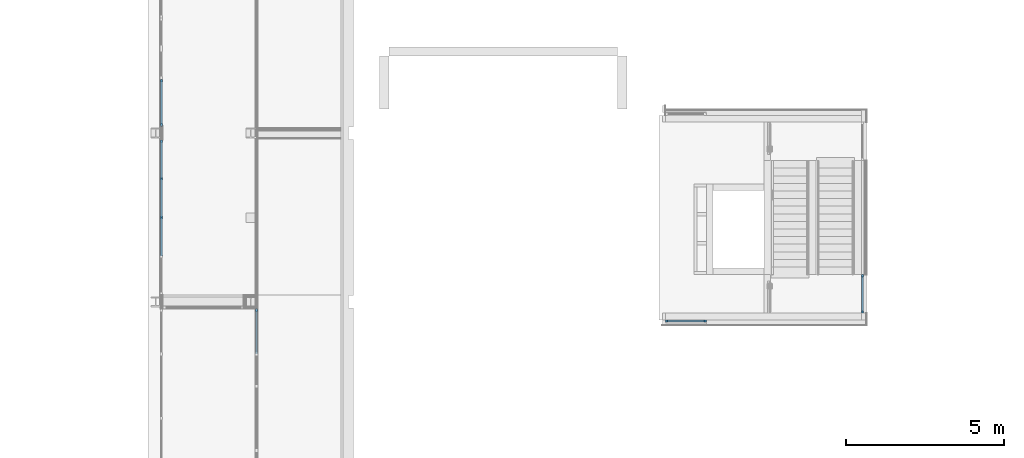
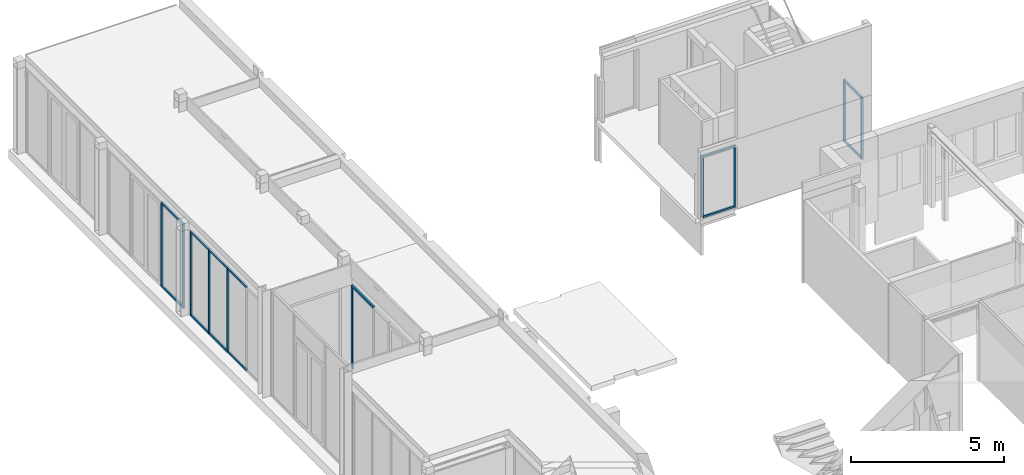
# One storey, part 3 of 99: 23 members, 5 elements without a shape of their own.
"""IFC2X3 building model written with IfcOpenShell, lengths in millimetres."""

from ifc_helpers import new_model, entity, si_unit, converted_unit, derived_unit, money_unit, direction, frame, origin_with_axes, place, context, subcontext, project, spatial, faceted_brep, source, transform, mapped, material, type_object, type_shapes, element, aggregate, save


model = new_model("IFC2X3")

# Units and contexts
model_context = context("Model", 3, precision=0.01, world=origin_with_axes(), true_north=direction((0.0, 1.0)))
body_context = subcontext(model_context, "Body", "Model", "MODEL_VIEW")
ifc_project = project(units=[si_unit("LENGTHUNIT", "METRE", prefix="MILLI"), si_unit("AREAUNIT", "SQUARE_METRE"), si_unit("VOLUMEUNIT", "CUBIC_METRE"), converted_unit("PLANEANGLEUNIT", "DEGREE", entity("IfcPlaneAngleMeasure", 0.0174532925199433), si_unit("PLANEANGLEUNIT", "RADIAN"), dimensions=[0, 0, 0, 0, 0, 0, 0]), money_unit("EUR"), converted_unit("TIMEUNIT", "Year", entity("IfcTimeMeasure", 31557600.0), si_unit("TIMEUNIT", "SECOND"), dimensions=[0, 0, 1, 0, 0, 0, 0]), si_unit("MASSUNIT", "GRAM", prefix="KILO"), si_unit("THERMODYNAMICTEMPERATUREUNIT", "DEGREE_CELSIUS"), si_unit("LUMINOUSINTENSITYUNIT", "LUMEN"), si_unit("ENERGYUNIT", "JOULE", prefix="MEGA"), derived_unit("THERMALCONDUCTANCEUNIT", [(si_unit("POWERUNIT", "WATT"), 1), (si_unit("LENGTHUNIT", "METRE"), -1), (si_unit("THERMODYNAMICTEMPERATUREUNIT", "KELVIN"), -1)]), derived_unit("SPECIFICHEATCAPACITYUNIT", [(si_unit("ENERGYUNIT", "JOULE"), 1), (si_unit("MASSUNIT", "GRAM", prefix="KILO"), -1), (si_unit("THERMODYNAMICTEMPERATUREUNIT", "KELVIN"), -1)]), derived_unit("MASSDENSITYUNIT", [(si_unit("MASSUNIT", "GRAM", prefix="KILO"), 1), (si_unit("VOLUMEUNIT", "CUBIC_METRE"), -1)])], contexts=[model_context])

# Site, building, storey
site_placement = place(None, origin_with_axes())
site = spatial("IfcSite", under=ifc_project, at=site_placement, Name="Site", CompositionType="ELEMENT")
building_placement = place(site_placement, origin_with_axes())
building = spatial("IfcBuilding", under=site, at=building_placement, Name="Naam gebouw", CompositionType="ELEMENT")
storey_placement = place(building_placement, frame((0.0, 0.0, 7650.0), z_axis=(0.0, 0.0, 1.0), x_axis=(1.0, 0.0, 0.0)))
storey = spatial("IfcBuildingStorey", under=building, at=storey_placement, Name="2e verdieping N", CompositionType="ELEMENT", Elevation=7650.0)

# Curtain wall, members
curtain_wall_type_1 = type_object("IfcCurtainWallType", Name="Curtain Wall:21_CW_alu kozijn 070x065", PredefinedType="NOTDEFINED")
curtain_wall_1_placement = place(storey_placement, frame((0.0, 0.0, -7650.0), z_axis=(0.0, 0.0, 1.0), x_axis=(1.0, 0.0, 0.0)))
curtain_wall_1 = element("IfcCurtainWall", 1, at=curtain_wall_1_placement, inside=storey, type_object=curtain_wall_type_1, Name="Curtain Wall:21_CW_alu kozijn 070x065", ObjectType="Curtain Wall:21_CW_alu kozijn 070x065")
ifc_material = material(Name="RAL 7024 - Grafietgrijs")
member_type_1 = type_object("IfcMemberType", Name="Rectangular Mullion:31_alu_070x065 RAL 7024", PredefinedType="MULLION")
shared_shape_1 = source(origin_with_axes(), body_context, "Body", "Brep", [
    faceted_brep([(32.49999999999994, 1080.0, 0.0), (32.49999999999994, 1080.0, 70.0), (32.50000000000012, 0.0, 70.0), (32.50000000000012, 0.0, 0.0), (-32.50000000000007, 1080.0, 0.0), (-32.50000000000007, 1080.0, 70.0), (-32.4999999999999, 0.0, 70.0), (-32.4999999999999, 0.0, 0.0)], [[[0, 1, 2, 3]], [[0, 4, 5, 1]], [[1, 5, 6, 2]], [[3, 2, 6, 7]], [[4, 0, 3, 7]], [[5, 4, 7, 6]]]),
])
type_shapes(member_type_1, [shared_shape_1])
member_1_placement = place(curtain_wall_1_placement, frame((36613.5000000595, 34075.91242622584, 5920.000000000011), z_axis=(0.0, 0.0, 1.0), x_axis=(-1.0, 0.0, 0.0)))
member_1 = element("IfcMember", 2, at=member_1_placement, type_object=member_type_1, material=ifc_material, Name="Rectangular Mullion:31_alu_070x065 RAL 7024", ObjectType="MULLION", context=body_context, shape_type="MappedRepresentation", body=[
    mapped(shared_shape_1, transform((0.0, 0.0, 0.0))),
])
member_type_2 = type_object("IfcMemberType", Name="Rectangular Mullion:31_alu_070x065 RAL 7024", PredefinedType="MULLION")
shared_shape_2 = source(origin_with_axes(), body_context, "Body", "Brep", [
    faceted_brep([(0.0, -32.5, 2470.0), (-70.0, -32.50000000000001, 2470.0), (-70.0, -32.50000000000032, 0.0), (0.0, -32.50000000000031, 0.0), (0.0, 32.50000000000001, 2470.0), (-70.0, 32.5, 2470.0), (-70.0, 32.49999999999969, 0.0), (0.0, 32.49999999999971, 0.0)], [[[0, 1, 2, 3]], [[0, 4, 5, 1]], [[1, 5, 6, 2]], [[3, 2, 6, 7]], [[4, 0, 3, 7]], [[5, 4, 7, 6]]]),
])
type_shapes(member_type_2, [shared_shape_2])
member_2_placement = place(curtain_wall_1_placement, frame((36613.5000000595, 32925.91242631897, 5920.000000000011), z_axis=(0.0, 0.0, 1.0), x_axis=(0.0, -1.0, 0.0)))
member_2 = element("IfcMember", 3, at=member_2_placement, type_object=member_type_2, material=ifc_material, Name="Rectangular Mullion:31_alu_070x065 RAL 7024", ObjectType="MULLION", context=body_context, shape_type="MappedRepresentation", body=[
    mapped(shared_shape_2, transform((0.0, 0.0, 0.0))),
])

# Curtain wall, member
curtain_wall_2_placement = place(storey_placement, frame((0.0, 0.0, -7650.0), z_axis=(0.0, 0.0, 1.0), x_axis=(1.0, 0.0, 0.0)))
curtain_wall_2 = element("IfcCurtainWall", 4, at=curtain_wall_2_placement, inside=storey, type_object=curtain_wall_type_1, Name="Curtain Wall:21_CW_alu kozijn 070x065", ObjectType="Curtain Wall:21_CW_alu kozijn 070x065")
member_3_placement = place(curtain_wall_2_placement, frame((30391.00000002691, 32679.41242631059, 5920.000000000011), z_axis=(0.0, 0.0, 1.0), x_axis=(-1.0, 0.0, 0.0)))
member_3 = element("IfcMember", 5, at=member_3_placement, type_object=member_type_2, material=ifc_material, Name="Rectangular Mullion:31_alu_070x065 RAL 7024", ObjectType="MULLION", context=body_context, shape_type="MappedRepresentation", body=[
    mapped(shared_shape_2, transform((0.0, 0.0, 0.0))),
])

# Member
member_type_3 = type_object("IfcMemberType", Name="Rectangular Mullion:31_alu_070x065 RAL 7024", PredefinedType="MULLION")
shared_shape_3 = source(origin_with_axes(), body_context, "Body", "Brep", [
    faceted_brep([(0.0, 32.5, -2470.0), (-70.0, 32.50000000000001, -2470.0), (-70.0, 32.50000000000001, 0.0), (0.0, 32.5, 0.0), (0.0, -32.50000000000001, -2470.0), (-70.0, -32.5, -2470.0), (-70.0, -32.5, 0.0), (0.0, -32.50000000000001, 0.0)], [[[0, 1, 2, 3]], [[0, 4, 5, 1]], [[1, 5, 6, 2]], [[3, 2, 6, 7]], [[4, 0, 3, 7]], [[5, 4, 7, 6]]]),
])
type_shapes(member_type_3, [shared_shape_3])
member_4_placement = place(curtain_wall_1_placement, frame((36613.5000000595, 34145.91242629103, 8390.00000000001), z_axis=(0.0, 0.0, 1.0), x_axis=(0.0, 1.0, 0.0)))
member_4 = element("IfcMember", 6, at=member_4_placement, type_object=member_type_3, material=ifc_material, Name="Rectangular Mullion:31_alu_070x065 RAL 7024", ObjectType="MULLION", context=body_context, shape_type="MappedRepresentation", body=[
    mapped(shared_shape_3, transform((0.0, 0.0, 0.0))),
])

member_5_placement = place(curtain_wall_2_placement, frame((31685.01028266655, 32679.41242631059, 8390.00000000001), z_axis=(0.0, 0.0, 1.0), x_axis=(1.0, 0.0, 0.0)))
member_5 = element("IfcMember", 7, at=member_5_placement, type_object=member_type_3, material=ifc_material, Name="Rectangular Mullion:31_alu_070x065 RAL 7024", ObjectType="MULLION", context=body_context, shape_type="MappedRepresentation", body=[
    mapped(shared_shape_3, transform((0.0, 0.0, 0.0))),
])

member_type_4 = type_object("IfcMemberType", Name="Rectangular Mullion:31_alu_070x065 RAL 7024", PredefinedType="MULLION")
shared_shape_4 = source(origin_with_axes(), body_context, "Body", "Brep", [
    faceted_brep([(32.50000000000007, -1080.0, 0.0), (32.50000000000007, -1080.0, -70.0), (32.4999999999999, 0.0, -70.0), (32.4999999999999, 0.0, 0.0), (-32.49999999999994, -1080.0, 0.0), (-32.49999999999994, -1080.0, -70.0), (-32.50000000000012, 0.0, -70.0), (-32.50000000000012, 0.0, 0.0)], [[[0, 1, 2, 3]], [[0, 4, 5, 1]], [[1, 5, 6, 2]], [[3, 2, 6, 7]], [[4, 0, 3, 7]], [[5, 4, 7, 6]]]),
])
type_shapes(member_type_4, [shared_shape_4])
member_6_placement = place(curtain_wall_1_placement, frame((36613.5000000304, 32995.91242626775, 8390.00000000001), z_axis=(0.0, 0.0, 1.0), x_axis=(-1.0, 0.0, 0.0)))
member_6 = element("IfcMember", 8, at=member_6_placement, type_object=member_type_4, material=ifc_material, Name="Rectangular Mullion:31_alu_070x065 RAL 7024", ObjectType="MULLION", context=body_context, shape_type="MappedRepresentation", body=[
    mapped(shared_shape_4, transform((0.0, 0.0, 0.0))),
])

aggregate(curtain_wall_1, [member_1, member_4, member_6, member_2])

member_type_5 = type_object("IfcMemberType", Name="Rectangular Mullion:31_alu_070x065 RAL 7024", PredefinedType="MULLION")
shared_shape_5 = source(origin_with_axes(), body_context, "Body", "Brep", [
    faceted_brep([(32.49999999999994, 1154.0, 0.0), (32.49999999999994, 1154.0, 70.0), (32.50000000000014, -2.993161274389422e-10, 70.0), (32.50000000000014, -2.993161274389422e-10, 0.0), (-32.50000000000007, 1154.0, 0.0), (-32.50000000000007, 1154.0, 70.0), (-32.49999999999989, -2.993161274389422e-10, 70.0), (-32.49999999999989, -2.993161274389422e-10, 0.0)], [[[0, 1, 2, 3]], [[0, 4, 5, 1]], [[1, 5, 6, 2]], [[3, 2, 6, 7]], [[4, 0, 3, 7]], [[5, 4, 7, 6]]]),
])
type_shapes(member_type_5, [shared_shape_5])
member_7_placement = place(curtain_wall_2_placement, frame((31615.01028263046, 32679.41242631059, 5920.000000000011), z_axis=(0.0, 0.0, 1.0), x_axis=(0.0, 1.0, 0.0)))
member_7 = element("IfcMember", 9, at=member_7_placement, type_object=member_type_5, material=ifc_material, Name="Rectangular Mullion:31_alu_070x065 RAL 7024", ObjectType="MULLION", context=body_context, shape_type="MappedRepresentation", body=[
    mapped(shared_shape_5, transform((0.0, 0.0, 0.0))),
])

member_type_6 = type_object("IfcMemberType", Name="Rectangular Mullion:31_alu_070x065 RAL 7024", PredefinedType="MULLION")
shared_shape_6 = source(origin_with_axes(), body_context, "Body", "Brep", [
    faceted_brep([(32.50000000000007, -1154.0, 0.0), (32.50000000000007, -1154.0, -70.0), (32.49999999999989, 2.993161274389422e-10, -70.0), (32.49999999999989, 2.993161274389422e-10, 0.0), (-32.49999999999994, -1154.0, 0.0), (-32.49999999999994, -1154.0, -70.0), (-32.50000000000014, 2.993161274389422e-10, -70.0), (-32.50000000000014, 2.993161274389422e-10, 0.0)], [[[0, 1, 2, 3]], [[0, 4, 5, 1]], [[1, 5, 6, 2]], [[3, 2, 6, 7]], [[4, 0, 3, 7]], [[5, 4, 7, 6]]]),
])
type_shapes(member_type_6, [shared_shape_6])
member_8_placement = place(curtain_wall_2_placement, frame((30461.00000003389, 32679.41242631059, 8390.00000000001), z_axis=(0.0, 0.0, 1.0), x_axis=(0.0, 1.0, 0.0)))
member_8 = element("IfcMember", 10, at=member_8_placement, type_object=member_type_6, material=ifc_material, Name="Rectangular Mullion:31_alu_070x065 RAL 7024", ObjectType="MULLION", context=body_context, shape_type="MappedRepresentation", body=[
    mapped(shared_shape_6, transform((0.0, 0.0, 0.0))),
])

aggregate(curtain_wall_2, [member_7, member_8, member_3, member_5])

# Curtain wall, member
curtain_wall_type_2 = type_object("IfcCurtainWallType", Name="Curtain Wall:21_CW_alu kozijn 084x065", PredefinedType="NOTDEFINED")
curtain_wall_3_placement = place(storey_placement, frame((0.0, 0.0, -7650.0), z_axis=(0.0, 0.0, 1.0), x_axis=(1.0, 0.0, 0.0)))
curtain_wall_3 = element("IfcCurtainWall", 11, at=curtain_wall_3_placement, inside=storey, type_object=curtain_wall_type_2, Name="Curtain Wall:21_CW_alu kozijn 084x065", ObjectType="Curtain Wall:21_CW_alu kozijn 084x065")
member_type_7 = type_object("IfcMemberType", Name="Rectangular Mullion:31_alu_084x065 RAL 7024", PredefinedType="MULLION")
shared_shape_7 = source(origin_with_axes(), body_context, "Body", "Brep", [
    faceted_brep([(42.00000000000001, -32.49999999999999, 3232.0), (-41.99999999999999, -32.50000000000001, 3232.0), (-41.99999999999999, -32.50000000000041, 0.0), (42.00000000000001, -32.50000000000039, 0.0), (41.99999999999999, 32.50000000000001, 3232.0), (-42.00000000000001, 32.49999999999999, 3232.0), (-42.00000000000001, 32.4999999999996, 0.0), (41.99999999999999, 32.49999999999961, 0.0)], [[[0, 1, 2, 3]], [[0, 4, 5, 1]], [[1, 5, 6, 2]], [[3, 2, 6, 7]], [[4, 0, 3, 7]], [[5, 4, 7, 6]]]),
])
type_shapes(member_type_7, [shared_shape_7])
member_9_placement = place(curtain_wall_3_placement, frame((14474.50000003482, 40265.91242634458, 4234.000000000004), z_axis=(0.0, 0.0, 1.0), x_axis=(0.0, 1.0, 0.0)))
member_9 = element("IfcMember", 12, at=member_9_placement, type_object=member_type_7, material=ifc_material, Name="Rectangular Mullion:31_alu_084x065 RAL 7024", ObjectType="MULLION", context=body_context, shape_type="MappedRepresentation", body=[
    mapped(shared_shape_7, transform((0.0, 0.0, 0.0))),
])

# Curtain wall, members
curtain_wall_4_placement = place(storey_placement, frame((0.0, 0.0, -7650.0), z_axis=(0.0, 0.0, 1.0), x_axis=(1.0, 0.0, 0.0)))
curtain_wall_4 = element("IfcCurtainWall", 13, at=curtain_wall_4_placement, inside=storey, type_object=curtain_wall_type_2, Name="Curtain Wall:21_CW_alu kozijn 084x065", ObjectType="Curtain Wall:21_CW_alu kozijn 084x065")
member_10_placement = place(curtain_wall_4_placement, frame((14474.50000003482, 35950.91242634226, 4234.000000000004), z_axis=(0.0, 0.0, 1.0), x_axis=(0.0, 1.0, 0.0)))
member_10 = element("IfcMember", 14, at=member_10_placement, type_object=member_type_7, material=ifc_material, Name="Rectangular Mullion:31_alu_084x065 RAL 7024", ObjectType="MULLION", context=body_context, shape_type="MappedRepresentation", body=[
    mapped(shared_shape_7, transform((0.0, 0.0, 0.0))),
])
member_11_placement = place(curtain_wall_4_placement, frame((14474.50000003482, 37175.91242631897, 4234.000000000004), z_axis=(0.0, 0.0, 1.0), x_axis=(0.0, 1.0, 0.0)))
member_11 = element("IfcMember", 15, at=member_11_placement, type_object=member_type_7, material=ifc_material, Name="Rectangular Mullion:31_alu_084x065 RAL 7024", ObjectType="MULLION", context=body_context, shape_type="MappedRepresentation", body=[
    mapped(shared_shape_7, transform((0.0, 0.0, 0.0))),
])
member_type_8 = type_object("IfcMemberType", Name="Rectangular Mullion:31_alu_084x065 RAL 7024", PredefinedType="MULLION")
shared_shape_8 = source(origin_with_axes(), body_context, "Body", "Brep", [
    faceted_brep([(0.0, -32.5, 3232.0), (-83.99999999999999, -32.50000000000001, 3232.0), (-83.99999999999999, -32.50000000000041, 0.0), (0.0, -32.5000000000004, 0.0), (0.0, 32.50000000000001, 3232.0), (-84.00000000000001, 32.5, 3232.0), (-84.00000000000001, 32.4999999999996, 0.0), (0.0, 32.49999999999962, 0.0)], [[[0, 1, 2, 3]], [[0, 4, 5, 1]], [[1, 5, 6, 2]], [[3, 2, 6, 7]], [[4, 0, 3, 7]], [[5, 4, 7, 6]]]),
])
type_shapes(member_type_8, [shared_shape_8])
member_12_placement = place(curtain_wall_4_placement, frame((14474.50000006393, 38400.91242629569, 4234.000000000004), z_axis=(0.0, 0.0, 1.0), x_axis=(0.0, 1.0, 0.0)))
member_12 = element("IfcMember", 16, at=member_12_placement, type_object=member_type_8, material=ifc_material, Name="Rectangular Mullion:31_alu_084x065 RAL 7024", ObjectType="MULLION", context=body_context, shape_type="MappedRepresentation", body=[
    mapped(shared_shape_8, transform((0.0, 0.0, 0.0))),
])

# Curtain wall, member
curtain_wall_5_placement = place(storey_placement, frame((0.0, 0.0, -7650.0), z_axis=(0.0, 0.0, 1.0), x_axis=(1.0, 0.0, 0.0)))
curtain_wall_5 = element("IfcCurtainWall", 17, at=curtain_wall_5_placement, inside=storey, type_object=curtain_wall_type_2, Name="Curtain Wall:21_CW_alu kozijn 084x065", ObjectType="Curtain Wall:21_CW_alu kozijn 084x065")
member_13_placement = place(curtain_wall_5_placement, frame((17473.50000004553, 33070.9124263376, 4234.000000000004), z_axis=(0.0, 0.0, 1.0), x_axis=(0.0, 1.0, 0.0)))
member_13 = element("IfcMember", 18, at=member_13_placement, type_object=member_type_8, material=ifc_material, Name="Rectangular Mullion:31_alu_084x065 RAL 7024", ObjectType="MULLION", context=body_context, shape_type="MappedRepresentation", body=[
    mapped(shared_shape_8, transform((0.0, 0.0, 0.0))),
])

# Member
member_type_9 = type_object("IfcMemberType", Name="Rectangular Mullion:31_alu_084x065 RAL 7024", PredefinedType="MULLION")
shared_shape_9 = source(origin_with_axes(), body_context, "Body", "Brep", [
    faceted_brep([(0.0, 32.5, -3232.0), (-83.99999999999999, 32.50000000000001, -3232.0), (-83.99999999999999, 32.50000000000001, 0.0), (0.0, 32.5, 0.0), (0.0, -32.50000000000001, -3232.0), (-84.00000000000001, -32.5, -3232.0), (-84.00000000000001, -32.5, 0.0), (0.0, -32.50000000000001, 0.0)], [[[0, 1, 2, 3]], [[0, 4, 5, 1]], [[1, 5, 6, 2]], [[3, 2, 6, 7]], [[4, 0, 3, 7]], [[5, 4, 7, 6]]]),
])
type_shapes(member_type_9, [shared_shape_9])
member_14_placement = place(curtain_wall_3_placement, frame((14474.50000003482, 38830.91242634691, 7466.000000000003), z_axis=(0.0, 0.0, 1.0), x_axis=(0.0, -1.0, 0.0)))
member_14 = element("IfcMember", 19, at=member_14_placement, type_object=member_type_9, material=ifc_material, Name="Rectangular Mullion:31_alu_084x065 RAL 7024", ObjectType="MULLION", context=body_context, shape_type="MappedRepresentation", body=[
    mapped(shared_shape_9, transform((0.0, 0.0, 0.0))),
])

member_type_10 = type_object("IfcMemberType", Name="Rectangular Mullion:31_alu_084x065 RAL 7024", PredefinedType="MULLION")
shared_shape_10 = source(origin_with_axes(), body_context, "Body", "Brep", [
    faceted_brep([(32.49999999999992, 1477.0, 0.0), (32.49999999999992, 1477.0, 84.0), (32.50000000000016, -1.727507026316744e-10, 84.0), (32.50000000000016, -1.727507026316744e-10, 0.0), (-32.50000000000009, 1477.0, 0.0), (-32.50000000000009, 1477.0, 84.0), (-32.49999999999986, -1.727507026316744e-10, 84.0), (-32.49999999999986, -1.727507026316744e-10, 0.0)], [[[0, 1, 2, 3]], [[0, 4, 5, 1]], [[1, 5, 6, 2]], [[3, 2, 6, 7]], [[4, 0, 3, 7]], [[5, 4, 7, 6]]]),
])
type_shapes(member_type_10, [shared_shape_10])
member_15_placement = place(curtain_wall_3_placement, frame((14474.50000003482, 38830.91242634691, 4150.0), z_axis=(0.0, 0.0, 1.0), x_axis=(1.0, 0.0, 0.0)))
member_15 = element("IfcMember", 20, at=member_15_placement, type_object=member_type_10, material=ifc_material, Name="Rectangular Mullion:31_alu_084x065 RAL 7024", ObjectType="MULLION", context=body_context, shape_type="MappedRepresentation", body=[
    mapped(shared_shape_10, transform((0.0, 0.0, 0.0))),
])

member_type_11 = type_object("IfcMemberType", Name="Rectangular Mullion:31_alu_084x065 RAL 7024", PredefinedType="MULLION")
shared_shape_11 = source(origin_with_axes(), body_context, "Body", "Brep", [
    faceted_brep([(32.50000000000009, -1435.0, 0.0), (32.50000000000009, -1435.0, -84.0), (32.49999999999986, 1.729727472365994e-10, -84.0), (32.49999999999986, 1.729727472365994e-10, 0.0), (-32.49999999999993, -1435.0, 0.0), (-32.49999999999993, -1435.0, -84.0), (-32.50000000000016, 1.729727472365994e-10, -84.0), (-32.50000000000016, 1.729727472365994e-10, 0.0)], [[[0, 1, 2, 3]], [[0, 4, 5, 1]], [[1, 5, 6, 2]], [[3, 2, 6, 7]], [[4, 0, 3, 7]], [[5, 4, 7, 6]]]),
])
type_shapes(member_type_11, [shared_shape_11])
member_16_placement = place(curtain_wall_3_placement, frame((14474.50000003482, 40265.91242634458, 7550.000000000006), z_axis=(0.0, 0.0, 1.0), x_axis=(1.0, 0.0, 0.0)))
member_16 = element("IfcMember", 21, at=member_16_placement, type_object=member_type_11, material=ifc_material, Name="Rectangular Mullion:31_alu_084x065 RAL 7024", ObjectType="MULLION", context=body_context, shape_type="MappedRepresentation", body=[
    mapped(shared_shape_11, transform((0.0, 0.0, 0.0))),
])

aggregate(curtain_wall_3, [member_14, member_15, member_9, member_16])

member_type_12 = type_object("IfcMemberType", Name="Rectangular Mullion:31_alu_084x065 RAL 7024", PredefinedType="MULLION")
type_shapes(member_type_12, [shared_shape_11])
member_17_placement = place(curtain_wall_5_placement, frame((17473.50000004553, 33070.9124263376, 7550.000000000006), z_axis=(0.0, 0.0, 1.0), x_axis=(1.0, 0.0, 0.0)))
member_17 = element("IfcMember", 22, at=member_17_placement, type_object=member_type_12, material=ifc_material, Name="Rectangular Mullion:31_alu_084x065 RAL 7024", ObjectType="MULLION", context=body_context, shape_type="MappedRepresentation", body=[
    mapped(shared_shape_11, transform((0.0, 0.0, 0.0))),
])

aggregate(curtain_wall_5, [member_17, member_13])

member_type_13 = type_object("IfcMemberType", Name="Rectangular Mullion:31_alu_084x065 RAL 7024", PredefinedType="MULLION")
shared_shape_12 = source(origin_with_axes(), body_context, "Body", "Brep", [
    faceted_brep([(32.50000000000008, -1225.0, 0.0), (32.50000000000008, -1225.0, -84.0), (32.49999999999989, 0.0, -84.0), (32.49999999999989, 0.0, 0.0), (-32.49999999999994, -1225.0, 0.0), (-32.49999999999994, -1225.0, -84.0), (-32.50000000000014, 0.0, -84.0), (-32.50000000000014, 0.0, 0.0)], [[[0, 1, 2, 3]], [[0, 4, 5, 1]], [[1, 5, 6, 2]], [[3, 2, 6, 7]], [[4, 0, 3, 7]], [[5, 4, 7, 6]]]),
])
type_shapes(member_type_13, [shared_shape_12])
member_18_placement = place(curtain_wall_4_placement, frame((14474.50000003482, 35950.91242634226, 7550.000000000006), z_axis=(0.0, 0.0, 1.0), x_axis=(1.0, 0.0, 0.0)))
member_18 = element("IfcMember", 23, at=member_18_placement, type_object=member_type_13, material=ifc_material, Name="Rectangular Mullion:31_alu_084x065 RAL 7024", ObjectType="MULLION", context=body_context, shape_type="MappedRepresentation", body=[
    mapped(shared_shape_12, transform((0.0, 0.0, 0.0))),
])

member_type_14 = type_object("IfcMemberType", Name="Rectangular Mullion:31_alu_084x065 RAL 7024", PredefinedType="MULLION")
type_shapes(member_type_14, [shared_shape_12])
member_19_placement = place(curtain_wall_4_placement, frame((14474.50000006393, 38400.91242629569, 7550.000000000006), z_axis=(0.0, 0.0, 1.0), x_axis=(1.0, 0.0, 0.0)))
member_19 = element("IfcMember", 24, at=member_19_placement, type_object=member_type_14, material=ifc_material, Name="Rectangular Mullion:31_alu_084x065 RAL 7024", ObjectType="MULLION", context=body_context, shape_type="MappedRepresentation", body=[
    mapped(shared_shape_12, transform((0.0, 0.0, 0.0))),
])

member_20_placement = place(curtain_wall_4_placement, frame((14474.50000003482, 37175.91242631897, 7550.000000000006), z_axis=(0.0, 0.0, 1.0), x_axis=(1.0, 0.0, 0.0)))
member_20 = element("IfcMember", 25, at=member_20_placement, type_object=member_type_13, material=ifc_material, Name="Rectangular Mullion:31_alu_084x065 RAL 7024", ObjectType="MULLION", context=body_context, shape_type="MappedRepresentation", body=[
    mapped(shared_shape_12, transform((0.0, 0.0, 0.0))),
])

member_type_15 = type_object("IfcMemberType", Name="Rectangular Mullion:31_alu_084x065 RAL 7024", PredefinedType="MULLION")
shared_shape_13 = source(origin_with_axes(), body_context, "Body", "Brep", [
    faceted_brep([(32.49999999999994, 1225.0, 0.0), (32.49999999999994, 1225.0, 84.0), (32.50000000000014, 0.0, 84.0), (32.50000000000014, 0.0, 0.0), (-32.50000000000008, 1225.0, 0.0), (-32.50000000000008, 1225.0, 84.0), (-32.49999999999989, 0.0, 84.0), (-32.49999999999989, 0.0, 0.0)], [[[0, 1, 2, 3]], [[0, 4, 5, 1]], [[1, 5, 6, 2]], [[3, 2, 6, 7]], [[4, 0, 3, 7]], [[5, 4, 7, 6]]]),
])
type_shapes(member_type_15, [shared_shape_13])
member_21_placement = place(curtain_wall_4_placement, frame((14474.50000003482, 35950.91242634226, 4150.0), z_axis=(0.0, 0.0, 1.0), x_axis=(1.0, 0.0, 0.0)))
member_21 = element("IfcMember", 26, at=member_21_placement, type_object=member_type_15, material=ifc_material, Name="Rectangular Mullion:31_alu_084x065 RAL 7024", ObjectType="MULLION", context=body_context, shape_type="MappedRepresentation", body=[
    mapped(shared_shape_13, transform((0.0, 0.0, 0.0))),
])

member_22_placement = place(curtain_wall_4_placement, frame((14474.50000003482, 34725.91242630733, 4150.0), z_axis=(0.0, 0.0, 1.0), x_axis=(1.0, 0.0, 0.0)))
member_22 = element("IfcMember", 27, at=member_22_placement, type_object=member_type_15, material=ifc_material, Name="Rectangular Mullion:31_alu_084x065 RAL 7024", ObjectType="MULLION", context=body_context, shape_type="MappedRepresentation", body=[
    mapped(shared_shape_13, transform((0.0, 0.0, 0.0))),
])

member_type_16 = type_object("IfcMemberType", Name="Rectangular Mullion:31_alu_084x065 RAL 7024", PredefinedType="MULLION")
type_shapes(member_type_16, [shared_shape_13])
member_23_placement = place(curtain_wall_4_placement, frame((14474.50000003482, 37175.91242631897, 4150.0), z_axis=(0.0, 0.0, 1.0), x_axis=(1.0, 0.0, 0.0)))
member_23 = element("IfcMember", 28, at=member_23_placement, type_object=member_type_16, material=ifc_material, Name="Rectangular Mullion:31_alu_084x065 RAL 7024", ObjectType="MULLION", context=body_context, shape_type="MappedRepresentation", body=[
    mapped(shared_shape_13, transform((0.0, 0.0, 0.0))),
])

aggregate(curtain_wall_4, [member_21, member_18, member_10, member_11, member_19, member_12, member_22, member_20, member_23])

save(model, "model.ifc")
